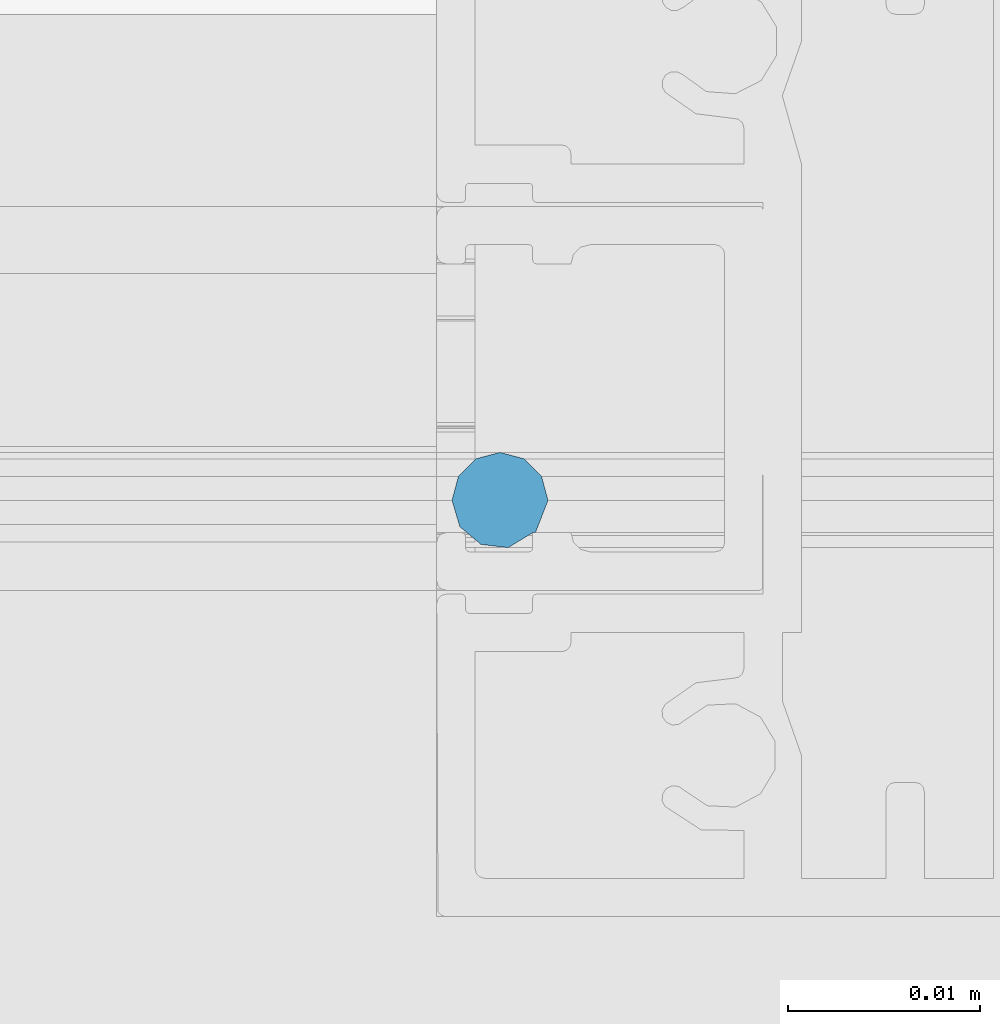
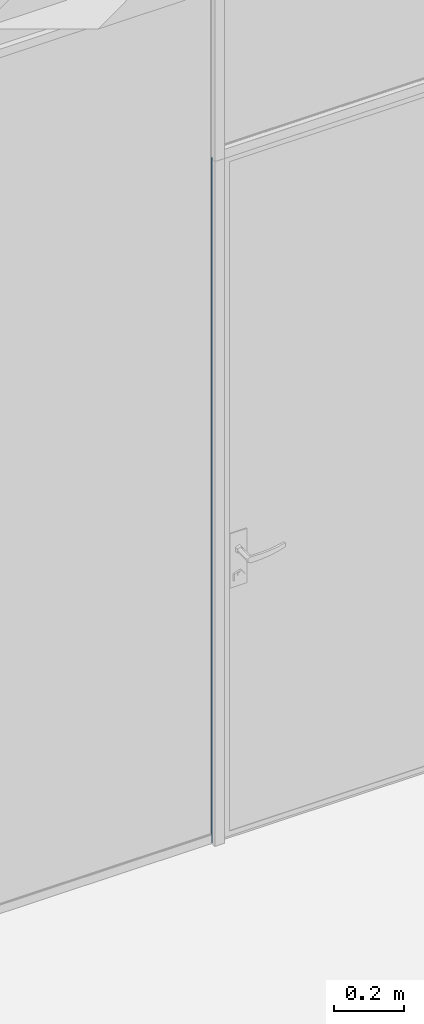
# One storey, part 84 of 387: 1 building element part, 2 elements without a shape of their own.
"""IFC2X3 building model written with IfcOpenShell, lengths in millimetres."""

from ifc_helpers import new_model, entity, si_unit, converted_unit, derived_unit, money_unit, direction, frame, origin_with_axes, place, context, subcontext, project, spatial, faceted_brep, source, transform, mapped, material, type_object, element, aggregate, save


model = new_model("IFC2X3")

# Units and contexts
model_context = context("Model", 3, precision=0.01, world=origin_with_axes(), true_north=direction((0.0, 1.0)))
body_context = subcontext(model_context, "Body", "Model", "MODEL_VIEW")
ifc_project = project(units=[si_unit("LENGTHUNIT", "METRE", prefix="MILLI"), si_unit("AREAUNIT", "SQUARE_METRE"), si_unit("VOLUMEUNIT", "CUBIC_METRE"), converted_unit("PLANEANGLEUNIT", "DEGREE", entity("IfcPlaneAngleMeasure", 0.0174532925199), si_unit("PLANEANGLEUNIT", "RADIAN"), dimensions=[0, 0, 0, 0, 0, 0, 0]), si_unit("SOLIDANGLEUNIT", "STERADIAN"), money_unit("EUR"), converted_unit("TIMEUNIT", "Year", entity("IfcTimeMeasure", 31556926.0), si_unit("TIMEUNIT", "SECOND"), dimensions=[0, 0, 1, 0, 0, 0, 0]), si_unit("MASSUNIT", "GRAM", prefix="KILO"), si_unit("THERMODYNAMICTEMPERATUREUNIT", "DEGREE_CELSIUS"), si_unit("LUMINOUSINTENSITYUNIT", "LUMEN"), si_unit("ENERGYUNIT", "JOULE", prefix="MEGA"), derived_unit("THERMALCONDUCTANCEUNIT", [(si_unit("POWERUNIT", "WATT"), 1), (si_unit("LENGTHUNIT", "METRE"), -1), (si_unit("THERMODYNAMICTEMPERATUREUNIT", "KELVIN"), -1)]), derived_unit("SPECIFICHEATCAPACITYUNIT", [(si_unit("ENERGYUNIT", "JOULE"), 1), (si_unit("MASSUNIT", "GRAM", prefix="KILO"), -1), (si_unit("THERMODYNAMICTEMPERATUREUNIT", "KELVIN"), -1)]), derived_unit("MASSDENSITYUNIT", [(si_unit("MASSUNIT", "GRAM", prefix="KILO"), 1), (si_unit("VOLUMEUNIT", "CUBIC_METRE"), -1)])], contexts=[model_context])

# Site, building, storey
site_placement = place(None, origin_with_axes())
site = spatial("IfcSite", under=ifc_project, at=site_placement, Name="Puškini 31, Narva", CompositionType="ELEMENT")
building_placement = place(site_placement, origin_with_axes())
building = spatial("IfcBuilding", under=site, at=building_placement, Name="Narva Riigigümnaasium", CompositionType="ELEMENT")
storey_placement = place(building_placement, frame((0.0, 0.0, 2640.0), z_axis=(0.0, 0.0, 1.0), x_axis=(1.0, 0.0, 0.0)))
storey = spatial("IfcBuildingStorey", under=building, at=storey_placement, Name="2.korrus +2.64", CompositionType="ELEMENT", Elevation=2640.0)

# Curtain wall, member, building element part
curtain_wall_type = type_object("IfcCurtainWallType", Name="Curtain Wall Type", PredefinedType="NOTDEFINED")
curtain_wall_placement = place(storey_placement, frame((26984.7499996, 181679.973357, -1.33722362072e-05), z_axis=(0.0, 0.0, 1.0), x_axis=(1.0, 0.0, 0.0)))
curtain_wall = element("IfcCurtainWall", 1, at=curtain_wall_placement, inside=storey, type_object=curtain_wall_type, Name="G-SKLF-18")
member_type = type_object("IfcMemberType", Name="32 x 27", PredefinedType="MULLION")
member_placement = place(curtain_wall_placement, frame((345.25, 9.77706804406e-09, 0.0), z_axis=(0.0, 0.0, 1.0), x_axis=(1.0, 0.0, 0.0)))
member = element("IfcMember", 2, at=member_placement, type_object=member_type, Name="G-SKLF-18-raam", ObjectType="MULLION")
aggregate(curtain_wall, [member])
ifc_material = material(Name="Soojustus - Mineraal Kõva")
shared_shape = source(origin_with_axes(), body_context, "Body", "Brep", [
    faceted_brep([(27.0, 6.99999999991, 0.0), (27.0, 6.99999999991, 2400.00001337), (28.2816361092, 7.77906931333, 2400.00001337), (28.2816361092, 7.77906931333, 0.0), (26.8568724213, 7.00000000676, 0.0), (26.8568724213, 7.00000000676, 2400.00001337), (26.2036516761, 5.31494614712, 2400.00001337), (26.5385881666, 4.06494614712, 2400.00001337), (27.4536516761, 3.14988263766, 2400.00001337), (28.7036516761, 2.81494614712, 2400.00001337), (29.9536516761, 3.14988263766, 2400.00001337), (30.8687151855, 4.06494614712, 2400.00001337), (31.2036516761, 5.31494614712, 2400.00001337), (30.7946188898, 6.68529506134, 2400.00001337), (29.7013667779, 7.60722986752, 2400.00001337), (29.7013667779, 7.60722986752, 0.0), (30.7946188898, 6.68529506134, 0.0), (31.2036516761, 5.31494614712, 0.0), (30.8687151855, 4.06494614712, 0.0), (29.9536516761, 3.14988263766, 0.0), (28.7036516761, 2.81494614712, 0.0), (27.4536516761, 3.14988263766, 0.0), (26.5385881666, 4.06494614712, 0.0), (26.2036516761, 5.31494614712, 0.0)], [[[0, 1, 2, 3]], [[4, 5, 1, 0]], [[1, 5, 6, 7, 8, 9, 10, 11, 12, 13, 14, 2]], [[3, 2, 14, 15]], [[0, 3, 15, 16, 17, 18, 19, 20, 21, 22, 23, 4]], [[23, 6, 5, 4]], [[22, 7, 6, 23]], [[21, 8, 7, 22]], [[20, 9, 8, 21]], [[19, 10, 9, 20]], [[18, 11, 10, 19]], [[17, 12, 11, 18]], [[16, 13, 12, 17]], [[15, 14, 13, 16]]]),
])
building_element_part_placement = place(member_placement, origin_with_axes())
building_element_part = element("IfcBuildingElementPart", 3, at=building_element_part_placement, material=ifc_material, Name="Soojustus - Mineraal Kõva", context=body_context, shape_type="MappedRepresentation", body=[
    mapped(shared_shape, transform((0.0, 0.0, 0.0), x_axis=(-1.0, 0.0, 0.0), y_axis=(0.0, -1.0, 0.0), z_axis=(0.0, 0.0, 1.0))),
])
aggregate(member, [building_element_part])

save(model, "model.ifc")
